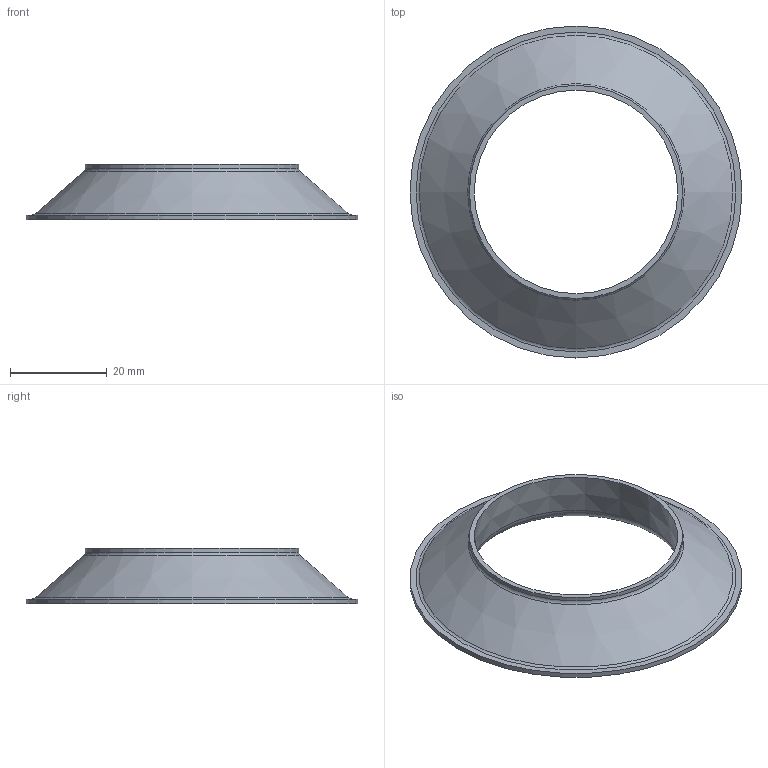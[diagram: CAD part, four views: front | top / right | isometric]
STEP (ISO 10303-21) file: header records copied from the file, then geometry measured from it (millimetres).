
FILE_DESCRIPTION( ('This file contains a STEP AP42 implementation' ,'as created by ZW3D STEP Interface translator.') ,'2;1' );
FILE_NAME( 'KM-42.stp' ,'26 511. 94841', (''), ('ZWCAD Software Co.'), 'Version 1.0', 'ZW3D to STEP translator', '' );
FILE_SCHEMA(('AP242_MANAGED_MODEL_BASED_3D_ENGINEERING_MIM_LF { 1 0 10303 442 1 1 4 }'));
Length unit declared in the file: millimetre
Products named in the file (1): 0
Bounding box: 68.5 x 68.5 x 11.5 mm (x, y, z)
Volume: 10641.7 mm3; surface area: 6861.4 mm2
Topology: 1 solids, 1 shells, 10 faces, 17 edges, 10 vertices
Faces by surface type: plane 3, torus 3, cylinder 2, cone 2
Full cylindrical faces by diameter (mm): 44 x1, 68.5 x1
Entity records: 276 total; most frequent: DIRECTION 52, CARTESIAN_POINT 38, ORIENTED_EDGE 34, AXIS2_PLACEMENT_3D 24, EDGE_CURVE 17, CIRCLE 13, EDGE_LOOP 13, VERTEX_POINT 10
